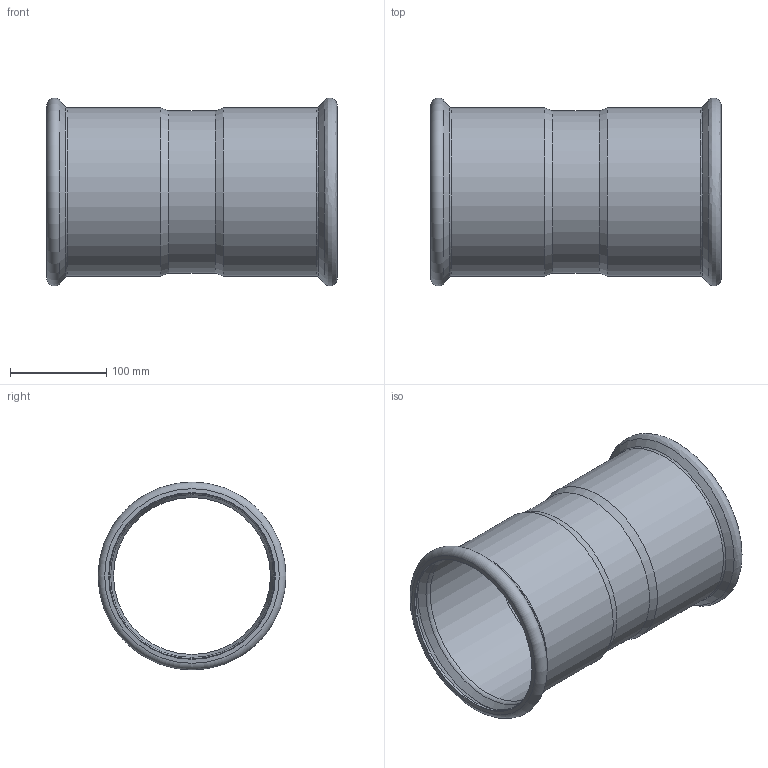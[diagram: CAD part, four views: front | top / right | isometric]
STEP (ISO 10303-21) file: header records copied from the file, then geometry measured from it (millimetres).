
FILE_DESCRIPTION((''),'2;1');
FILE_NAME('G:\Nirosan-Schmiedefeld\Technics\CAD\001 Serie 9.000\169_va\69270168H(0).stp','2020-10-06T07:59:12',('herberg'),(''),'Autodesk Inventor 2009','Autodesk Inventor 2009','');
FILE_SCHEMA(('AUTOMOTIVE_DESIGN { 1 0 10303 214 1 1 1 1 }'));
Length unit declared in the file: millimetre
Products named in the file (1): 69270168H(0)
Bounding box: 302 x 195.19 x 195.18 mm (x, y, z)
Volume: 456896 mm3; surface area: 354095 mm2
Topology: 1 solids, 1 shells, 30 faces, 60 edges, 30 vertices
Faces by surface type: bspline 16, cone 8, cylinder 4, torus 2
Full cylindrical faces by diameter (mm): 163.1 x1, 168.3 x1, 169.3 x1, 174.5 x1
Entity records: 1112 total; most frequent: CARTESIAN_POINT 633, DIRECTION 90, ORIENTED_EDGE 60, EDGE_LOOP 60, AXIS2_PLACEMENT_3D 45, VERTEX_POINT 30, CIRCLE 30, EDGE_CURVE 30
